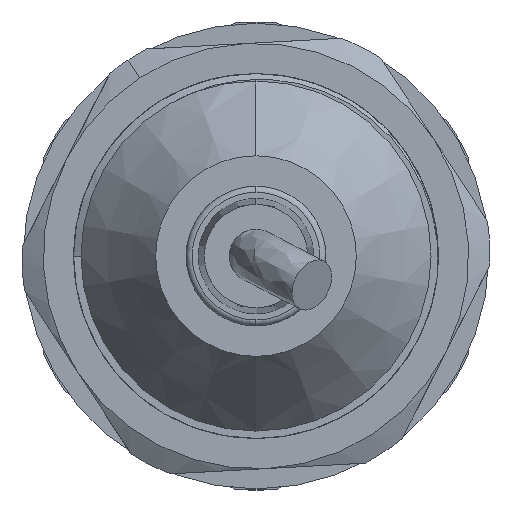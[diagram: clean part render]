
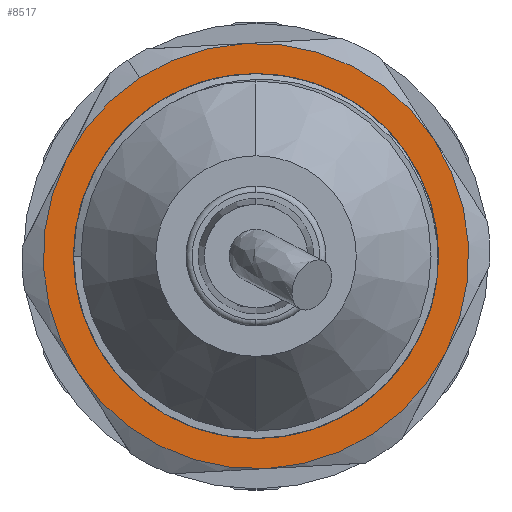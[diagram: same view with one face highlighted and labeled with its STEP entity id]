
A CAD part, front view. The second image highlights one B-rep face of the part: STEP entity #8517.
In plain terms, the highlighted planar face has unit normal (0, -1, 0).
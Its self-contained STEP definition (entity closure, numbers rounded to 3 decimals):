
#57 = DIRECTION ( 'NONE',  ( 0., -1., 0. ) ) ;
#65 = ORIENTED_EDGE ( 'NONE', *, *, #3220, .T. ) ;
#106 = CIRCLE ( 'NONE', #2987, 17.5 ) ;
#360 = DIRECTION ( 'NONE',  ( -0.547, 0., 0.837 ) ) ;
#374 = DIRECTION ( 'NONE',  ( -0.547, 0., 0.837 ) ) ;
#535 = AXIS2_PLACEMENT_3D ( 'NONE', #1195, #2643, #8665 ) ;
#631 = ORIENTED_EDGE ( 'NONE', *, *, #8577, .F. ) ;
#839 = CARTESIAN_POINT ( 'NONE',  ( -0.606, -5.954, 30. ) ) ;
#847 = CARTESIAN_POINT ( 'NONE',  ( -1.57, -5.954, 47.473 ) ) ;
#861 = CARTESIAN_POINT ( 'NONE',  ( -10.178, -5.954, 44.65 ) ) ;
#928 = ORIENTED_EDGE ( 'NONE', *, *, #4720, .T. ) ;
#973 = DIRECTION ( 'NONE',  ( 0., -1., 0. ) ) ;
#981 = CIRCLE ( 'NONE', #2847, 14.25 ) ;
#1139 = AXIS2_PLACEMENT_3D ( 'NONE', #839, #57, #2254 ) ;
#1195 = CARTESIAN_POINT ( 'NONE',  ( -0.606, -5.954, 30. ) ) ;
#1203 = ORIENTED_EDGE ( 'NONE', *, *, #5468, .F. ) ;
#1446 = CIRCLE ( 'NONE', #3321, 17.5 ) ;
#1477 = CIRCLE ( 'NONE', #5731, 17.5 ) ;
#1580 = CARTESIAN_POINT ( 'NONE',  ( -16.221, -5.954, 37.902 ) ) ;
#1726 = EDGE_LOOP ( 'NONE', ( #928, #4348, #9508, #8977, #6712, #4821, #65 ) ) ;
#1746 = CARTESIAN_POINT ( 'NONE',  ( -15.257, -5.954, 20.428 ) ) ;
#1787 = DIRECTION ( 'NONE',  ( -0.547, 0., 0.837 ) ) ;
#1916 = EDGE_CURVE ( 'NONE', #6983, #4814, #106, .T. ) ;
#2192 = CIRCLE ( 'NONE', #535, 17.5 ) ;
#2254 = DIRECTION ( 'NONE',  ( -0.547, 0., 0.837 ) ) ;
#2294 = CARTESIAN_POINT ( 'NONE',  ( 15.008, -5.954, 22.098 ) ) ;
#2540 = EDGE_CURVE ( 'NONE', #8776, #6983, #1477, .T. ) ;
#2643 = DIRECTION ( 'NONE',  ( 0., -1., 0. ) ) ;
#2674 = DIRECTION ( 'NONE',  ( -0.547, 0., 0.837 ) ) ;
#2776 = DIRECTION ( 'NONE',  ( -0.547, 0., 0.837 ) ) ;
#2836 = VERTEX_POINT ( 'NONE', #7409 ) ;
#2847 = AXIS2_PLACEMENT_3D ( 'NONE', #6812, #7559, #7416 ) ;
#2987 = AXIS2_PLACEMENT_3D ( 'NONE', #5527, #4819, #374 ) ;
#3117 = VERTEX_POINT ( 'NONE', #9317 ) ;
#3220 = EDGE_CURVE ( 'NONE', #3117, #4703, #7743, .T. ) ;
#3267 = AXIS2_PLACEMENT_3D ( 'NONE', #5995, #7464, #4472 ) ;
#3321 = AXIS2_PLACEMENT_3D ( 'NONE', #7319, #3529, #2776 ) ;
#3515 = FACE_OUTER_BOUND ( 'NONE', #1726, .T. ) ;
#3529 = DIRECTION ( 'NONE',  ( 0., -1., 0. ) ) ;
#3697 = EDGE_CURVE ( 'NONE', #8419, #8776, #1446, .T. ) ;
#4348 = ORIENTED_EDGE ( 'NONE', *, *, #3697, .T. ) ;
#4472 = DIRECTION ( 'NONE',  ( -0.547, 0., 0.837 ) ) ;
#4703 = VERTEX_POINT ( 'NONE', #847 ) ;
#4720 = EDGE_CURVE ( 'NONE', #4703, #8419, #5252, .T. ) ;
#4808 = DIRECTION ( 'NONE',  ( 0., -1., 0. ) ) ;
#4814 = VERTEX_POINT ( 'NONE', #5445 ) ;
#4819 = DIRECTION ( 'NONE',  ( 0., -1., 0. ) ) ;
#4821 = ORIENTED_EDGE ( 'NONE', *, *, #8741, .T. ) ;
#4865 = CARTESIAN_POINT ( 'NONE',  ( -0.606, -5.954, 30. ) ) ;
#5039 = EDGE_LOOP ( 'NONE', ( #631, #1203 ) ) ;
#5154 = EDGE_CURVE ( 'NONE', #4814, #8174, #2192, .T. ) ;
#5185 = AXIS2_PLACEMENT_3D ( 'NONE', #5575, #8549, #6323 ) ;
#5252 = CIRCLE ( 'NONE', #3267, 17.5 ) ;
#5385 = CIRCLE ( 'NONE', #1139, 17.5 ) ;
#5445 = CARTESIAN_POINT ( 'NONE',  ( 0.358, -5.954, 12.527 ) ) ;
#5468 = EDGE_CURVE ( 'NONE', #6773, #2836, #6037, .T. ) ;
#5527 = CARTESIAN_POINT ( 'NONE',  ( -0.606, -5.954, 30. ) ) ;
#5575 = CARTESIAN_POINT ( 'NONE',  ( -0.606, -5.954, 30. ) ) ;
#5731 = AXIS2_PLACEMENT_3D ( 'NONE', #9259, #4808, #2674 ) ;
#5974 = FACE_BOUND ( 'NONE', #5039, .T. ) ;
#5995 = CARTESIAN_POINT ( 'NONE',  ( -0.606, -5.954, 30. ) ) ;
#6037 = CIRCLE ( 'NONE', #8329, 14.25 ) ;
#6323 = DIRECTION ( 'NONE',  ( -0.547, 0., 0.837 ) ) ;
#6712 = ORIENTED_EDGE ( 'NONE', *, *, #5154, .T. ) ;
#6773 = VERTEX_POINT ( 'NONE', #8509 ) ;
#6812 = CARTESIAN_POINT ( 'NONE',  ( -0.606, -5.954, 30. ) ) ;
#6983 = VERTEX_POINT ( 'NONE', #1746 ) ;
#7319 = CARTESIAN_POINT ( 'NONE',  ( -0.606, -5.954, 30. ) ) ;
#7409 = CARTESIAN_POINT ( 'NONE',  ( -8.4, -5.954, 41.93 ) ) ;
#7416 = DIRECTION ( 'NONE',  ( -0.547, 0., 0.837 ) ) ;
#7464 = DIRECTION ( 'NONE',  ( 0., -1., 0. ) ) ;
#7559 = DIRECTION ( 'NONE',  ( 0., -1., 0. ) ) ;
#7635 = CARTESIAN_POINT ( 'NONE',  ( -0.606, -5.954, 30. ) ) ;
#7743 = CIRCLE ( 'NONE', #5185, 17.5 ) ;
#8174 = VERTEX_POINT ( 'NONE', #2294 ) ;
#8329 = AXIS2_PLACEMENT_3D ( 'NONE', #7635, #973, #1787 ) ;
#8419 = VERTEX_POINT ( 'NONE', #861 ) ;
#8509 = CARTESIAN_POINT ( 'NONE',  ( 7.188, -5.954, 18.07 ) ) ;
#8514 = DIRECTION ( 'NONE',  ( 0., -1., 0. ) ) ;
#8517 = ADVANCED_FACE ( 'NONE', ( #5974, #3515 ), #9221, .T. ) ;
#8549 = DIRECTION ( 'NONE',  ( 0., -1., 0. ) ) ;
#8577 = EDGE_CURVE ( 'NONE', #2836, #6773, #981, .T. ) ;
#8665 = DIRECTION ( 'NONE',  ( -0.547, 0., 0.837 ) ) ;
#8741 = EDGE_CURVE ( 'NONE', #8174, #3117, #5385, .T. ) ;
#8776 = VERTEX_POINT ( 'NONE', #1580 ) ;
#8977 = ORIENTED_EDGE ( 'NONE', *, *, #1916, .T. ) ;
#9045 = AXIS2_PLACEMENT_3D ( 'NONE', #4865, #8514, #360 ) ;
#9221 = PLANE ( 'NONE',  #9045 ) ;
#9259 = CARTESIAN_POINT ( 'NONE',  ( -0.606, -5.954, 30. ) ) ;
#9317 = CARTESIAN_POINT ( 'NONE',  ( 14.044, -5.954, 39.572 ) ) ;
#9508 = ORIENTED_EDGE ( 'NONE', *, *, #2540, .T. ) ;
